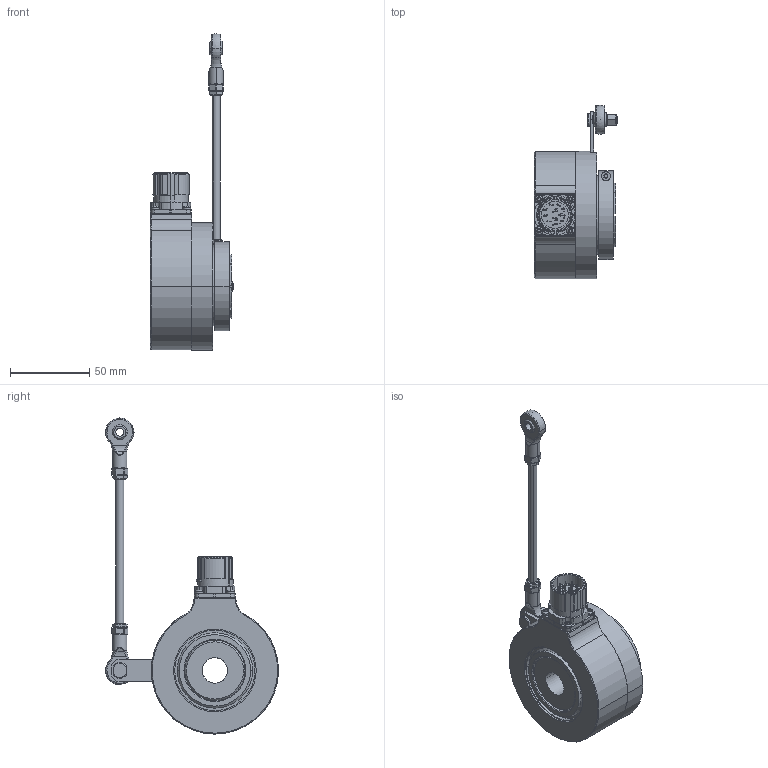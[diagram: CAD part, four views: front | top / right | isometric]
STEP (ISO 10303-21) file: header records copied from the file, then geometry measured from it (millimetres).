
FILE_DESCRIPTION (( 'STEP AP203' ), '1' );
FILE_NAME ('K80I.OXX.XXXXX.XH27816.6XRC4.step', '2025-12-09T12:41:09', ( '' ), ( '' ), 'SwSTEP 2.0', 'SolidWorks 2021', '' );
FILE_SCHEMA (( 'CONFIG_CONTROL_DESIGN' ));
Length unit declared in the file: millimetre
Products named in the file (1): K80I.OXX.XXXXX.XH27816.6XRC4
Bounding box: 52.6 x 108.97 x 199.07 mm (x, y, z)
Volume: 229335 mm3; surface area: 78520.2 mm2
Topology: 15 solids, 15 shells, 1077 faces, 2781 edges, 1748 vertices
Faces by surface type: plane 389, cylinder 343, bspline 148, cone 97, torus 52, sphere 48
Entity records: 40118 total; most frequent: CARTESIAN_POINT 14573, ORIENTED_EDGE 5426, DIRECTION 5204, EDGE_CURVE 2713, AXIS2_PLACEMENT_3D 1990, VERTEX_POINT 1741, LINE 1224, VECTOR 1224
